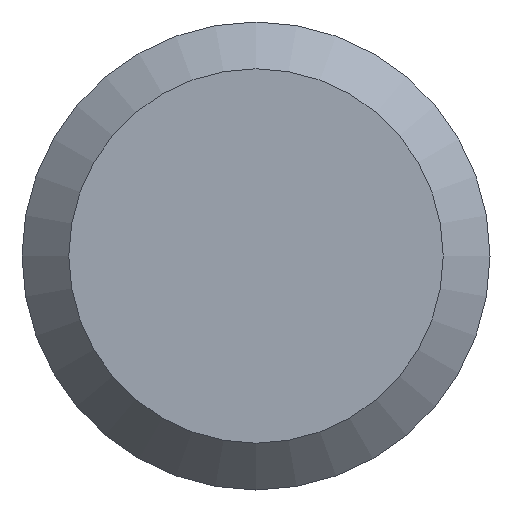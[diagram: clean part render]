
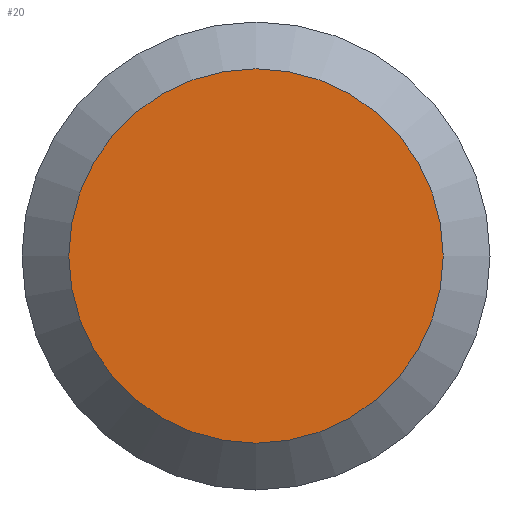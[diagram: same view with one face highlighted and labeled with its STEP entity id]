
A CAD part, left-side view. The second image highlights one B-rep face of the part: STEP entity #20.
In plain terms, the highlighted planar face has unit normal (-1, 0, 0).
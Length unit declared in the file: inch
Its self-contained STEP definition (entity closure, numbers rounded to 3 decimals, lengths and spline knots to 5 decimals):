
#20 = ADVANCED_FACE ( 'NONE', ( #29 ), #187, .F. ) ;
#26 = ORIENTED_EDGE ( 'NONE', *, *, #231, .T. ) ;
#29 = FACE_OUTER_BOUND ( 'NONE', #30, .T. ) ;
#30 = EDGE_LOOP ( 'NONE', ( #26 ) ) ;
#44 = CARTESIAN_POINT ( 'NONE',  ( 0., 0., -0.19375 ) ) ;
#47 = CARTESIAN_POINT ( 'NONE',  ( 0., 0.24219, 0. ) ) ;
#66 = CIRCLE ( 'NONE', #206, 0.19375 ) ;
#81 = DIRECTION ( 'NONE',  ( 0., 0., -1. ) ) ;
#89 = DIRECTION ( 'NONE',  ( -1., 0., 0. ) ) ;
#91 = AXIS2_PLACEMENT_3D ( 'NONE', #47, #248, #177 ) ;
#153 = VERTEX_POINT ( 'NONE', #44 ) ;
#177 = DIRECTION ( 'NONE',  ( 0., 0., -1. ) ) ;
#187 = PLANE ( 'NONE',  #91 ) ;
#206 = AXIS2_PLACEMENT_3D ( 'NONE', #219, #89, #81 ) ;
#219 = CARTESIAN_POINT ( 'NONE',  ( 0., 0., 0. ) ) ;
#231 = EDGE_CURVE ( 'NONE', #153, #153, #66, .T. ) ;
#248 = DIRECTION ( 'NONE',  ( 1., 0., 0. ) ) ;
